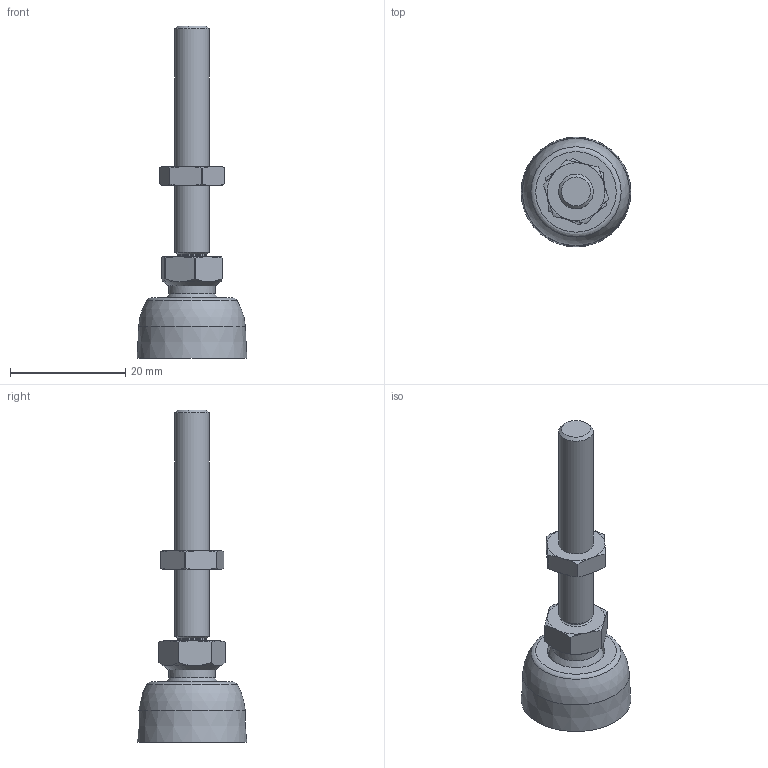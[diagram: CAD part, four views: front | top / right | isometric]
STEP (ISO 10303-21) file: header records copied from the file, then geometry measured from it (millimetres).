
FILE_DESCRIPTION(('STEP AP242'),'1');
FILE_NAME('TAPID20M06040PA.stp','2026-10-12T09:45:56',(' '),(' '),'Spatial InterOp 3D',' ',' ');
FILE_SCHEMA(('AP242_MANAGED_MODEL_BASED_3D_ENGINEERING_MIM_LF {1 0 10303 442 1 1 4}'));
Length unit declared in the file: millimetre
Products named in the file (5): Pied Ø20 M6x40 articulé réglable (+/- 12mm); Ecrou H DIN 439 M6; Tige filetée M6x40 (Ø10); Embase PA Ø20 (Ø10); TAPID20M06040PA
Assembly tree (4 placements, depth 3):
  TAPID20M06040PA
    Pied Ø20 M6x40 articulé réglable (+/- 12mm)
      Ecrou H DIN 439 M6
      Tige filetée M6x40 (Ø10)
      Embase PA Ø20 (Ø10)
Bounding box: 19 x 19 x 57.5 mm (x, y, z)
Volume: 3959.6 mm3; surface area: 3136.5 mm2
Topology: 3 solids, 3 shells, 76 faces, 169 edges, 101 vertices
Faces by surface type: torus 22, plane 20, cylinder 19, cone 6, bspline 6, sphere 3
Full cylindrical faces by diameter (mm): 5 x2, 6 x1, 8 x1, 10 x1, 11.2 x1, 17.5 x1
Entity records: 3356 total; most frequent: CARTESIAN_POINT 982, DIRECTION 320, ORIENTED_EDGE 288, AXIS2_PLACEMENT_3D 148, EDGE_CURVE 144, EDGE_LOOP 100, VERTEX_POINT 96, FACE_OUTER_BOUND 88
